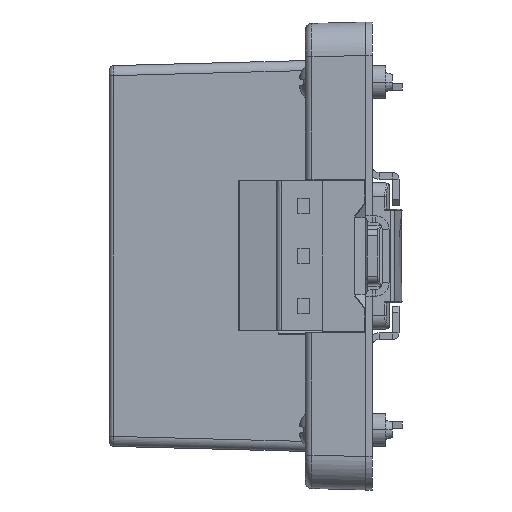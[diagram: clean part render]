
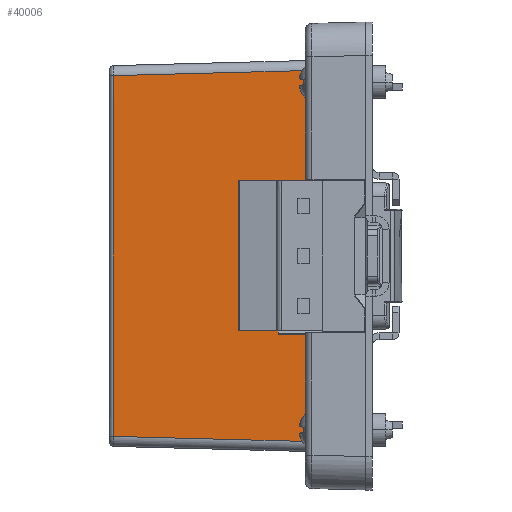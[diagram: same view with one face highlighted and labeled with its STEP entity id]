
A CAD part, left-side view. The second image highlights one B-rep face of the part: STEP entity #40006.
In plain terms, the highlighted planar face has unit normal (-1, 0.026, 0).
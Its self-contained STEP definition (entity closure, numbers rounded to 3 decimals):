
#38253=CARTESIAN_POINT('',(-54.5,0.,
27.75));
#38315=CARTESIAN_POINT('',(-53.73,29.416,
26.98));
#38427=DIRECTION('',(0.,0.,-1.));
#38428=VECTOR('',#38427,53.96);
#38429=CARTESIAN_POINT('',(-53.73,29.416,
26.98));
#38430=LINE('',#38429,#38428);
#38434=DIRECTION('',(-0.026,-0.999,0.026));
#38435=VECTOR('',#38434,29.436);
#38436=CARTESIAN_POINT('',(-53.73,29.416,
26.98));
#38437=LINE('',#38436,#38435);
#38441=DIRECTION('',(0.,0.,-1.));
#38442=VECTOR('',#38441,55.501);
#38443=CARTESIAN_POINT('',(-54.5,0.,
27.75));
#38444=LINE('',#38443,#38442);
#38448=DIRECTION('',(0.026,0.999,0.026));
#38449=VECTOR('',#38448,29.436);
#38450=CARTESIAN_POINT('',(-54.5,0.,
-27.75));
#38451=LINE('',#38450,#38449);
#38485=CARTESIAN_POINT('',(-54.5,0.,
-27.75));
#39375=VERTEX_POINT('',#38253);
#39384=VERTEX_POINT('',#38485);
#39413=VERTEX_POINT('',#38315);
#39446=CARTESIAN_POINT('',(-53.73,29.416,
-26.98));
#39447=VERTEX_POINT('',#39446);
#39994=CARTESIAN_POINT('',(-54.115,14.708,
0.));
#39995=DIRECTION('',(1.,-0.026,0.));
#39996=DIRECTION('',(0.,0.,-1.));
#39997=AXIS2_PLACEMENT_3D('',#39994,#39995,#39996);
#39998=PLANE('',#39997);
#39999=ORIENTED_EDGE('',*,*,#39981,.F.);
#40000=ORIENTED_EDGE('',*,*,#39829,.T.);
#40001=ORIENTED_EDGE('',*,*,#39753,.T.);
#40003=ORIENTED_EDGE('',*,*,#40002,.T.);
#40004=EDGE_LOOP('',(#39999,#40000,#40001,#40003));
#40005=FACE_OUTER_BOUND('',#40004,.F.);
#40006=ADVANCED_FACE('',(#40005),#39998,.F.);
#39753=EDGE_CURVE('',#39375,#39384,#38444,.T.);
#39829=EDGE_CURVE('',#39413,#39375,#38437,.T.);
#39981=EDGE_CURVE('',#39413,#39447,#38430,.T.);
#40002=EDGE_CURVE('',#39384,#39447,#38451,.T.);
